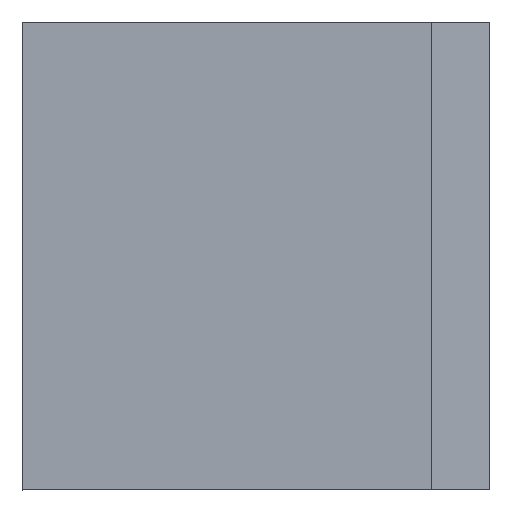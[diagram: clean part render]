
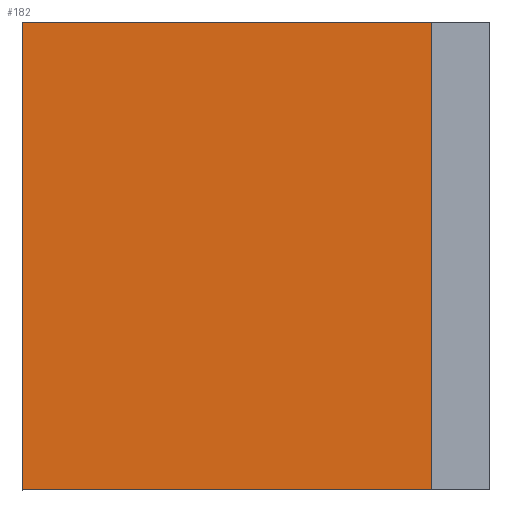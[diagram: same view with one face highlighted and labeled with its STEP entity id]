
A CAD part, top view. The second image highlights one B-rep face of the part: STEP entity #182.
In plain terms, the highlighted planar face has unit normal (0, 0, 1).
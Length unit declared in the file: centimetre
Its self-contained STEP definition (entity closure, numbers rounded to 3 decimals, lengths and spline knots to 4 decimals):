
#22 = DIRECTION ( 'NONE',  ( 0., 1., 0. ) ) ;
#26 = CARTESIAN_POINT ( 'NONE',  ( 0., 1000., 1000. ) ) ;
#39 = VERTEX_POINT ( 'NONE', #135 ) ;
#73 = VECTOR ( 'NONE', #609, 100. ) ;
#77 = CARTESIAN_POINT ( 'NONE',  ( 875.6814, 1000., 1000. ) ) ;
#134 = EDGE_CURVE ( 'NONE', #574, #649, #371, .T. ) ;
#135 = CARTESIAN_POINT ( 'NONE',  ( 875.6814, 0., 1000. ) ) ;
#137 = CARTESIAN_POINT ( 'NONE',  ( 0., 1000., 1000. ) ) ;
#150 = CARTESIAN_POINT ( 'NONE',  ( 0., 0., 1000. ) ) ;
#161 = VECTOR ( 'NONE', #22, 100. ) ;
#182 = ADVANCED_FACE ( 'NONE', ( #546 ), #718, .T. ) ;
#187 = VECTOR ( 'NONE', #313, 100. ) ;
#203 = EDGE_LOOP ( 'NONE', ( #350, #709, #554, #627 ) ) ;
#248 = DIRECTION ( 'NONE',  ( -1., 0., 0. ) ) ;
#270 = CARTESIAN_POINT ( 'NONE',  ( 0., 0., 1000. ) ) ;
#276 = DIRECTION ( 'NONE',  ( 1., 0., 0. ) ) ;
#313 = DIRECTION ( 'NONE',  ( 0., -1., 0. ) ) ;
#325 = CARTESIAN_POINT ( 'NONE',  ( 0., 0., 1000. ) ) ;
#331 = LINE ( 'NONE', #270, #73 ) ;
#350 = ORIENTED_EDGE ( 'NONE', *, *, #736, .T. ) ;
#364 = LINE ( 'NONE', #699, #161 ) ;
#371 = LINE ( 'NONE', #26, #187 ) ;
#394 = VECTOR ( 'NONE', #248, 100. ) ;
#416 = CARTESIAN_POINT ( 'NONE',  ( 0., 1000., 1000. ) ) ;
#447 = AXIS2_PLACEMENT_3D ( 'NONE', #325, #676, #276 ) ;
#479 = EDGE_CURVE ( 'NONE', #39, #584, #364, .T. ) ;
#546 = FACE_OUTER_BOUND ( 'NONE', #203, .T. ) ;
#554 = ORIENTED_EDGE ( 'NONE', *, *, #573, .T. ) ;
#573 = EDGE_CURVE ( 'NONE', #584, #574, #597, .T. ) ;
#574 = VERTEX_POINT ( 'NONE', #137 ) ;
#584 = VERTEX_POINT ( 'NONE', #77 ) ;
#597 = LINE ( 'NONE', #416, #394 ) ;
#609 = DIRECTION ( 'NONE',  ( 1., 0., 0. ) ) ;
#627 = ORIENTED_EDGE ( 'NONE', *, *, #134, .T. ) ;
#649 = VERTEX_POINT ( 'NONE', #150 ) ;
#676 = DIRECTION ( 'NONE',  ( 0., 0., 1. ) ) ;
#699 = CARTESIAN_POINT ( 'NONE',  ( 875.6814, 1000., 1000. ) ) ;
#709 = ORIENTED_EDGE ( 'NONE', *, *, #479, .T. ) ;
#718 = PLANE ( 'NONE',  #447 ) ;
#736 = EDGE_CURVE ( 'NONE', #649, #39, #331, .T. ) ;
